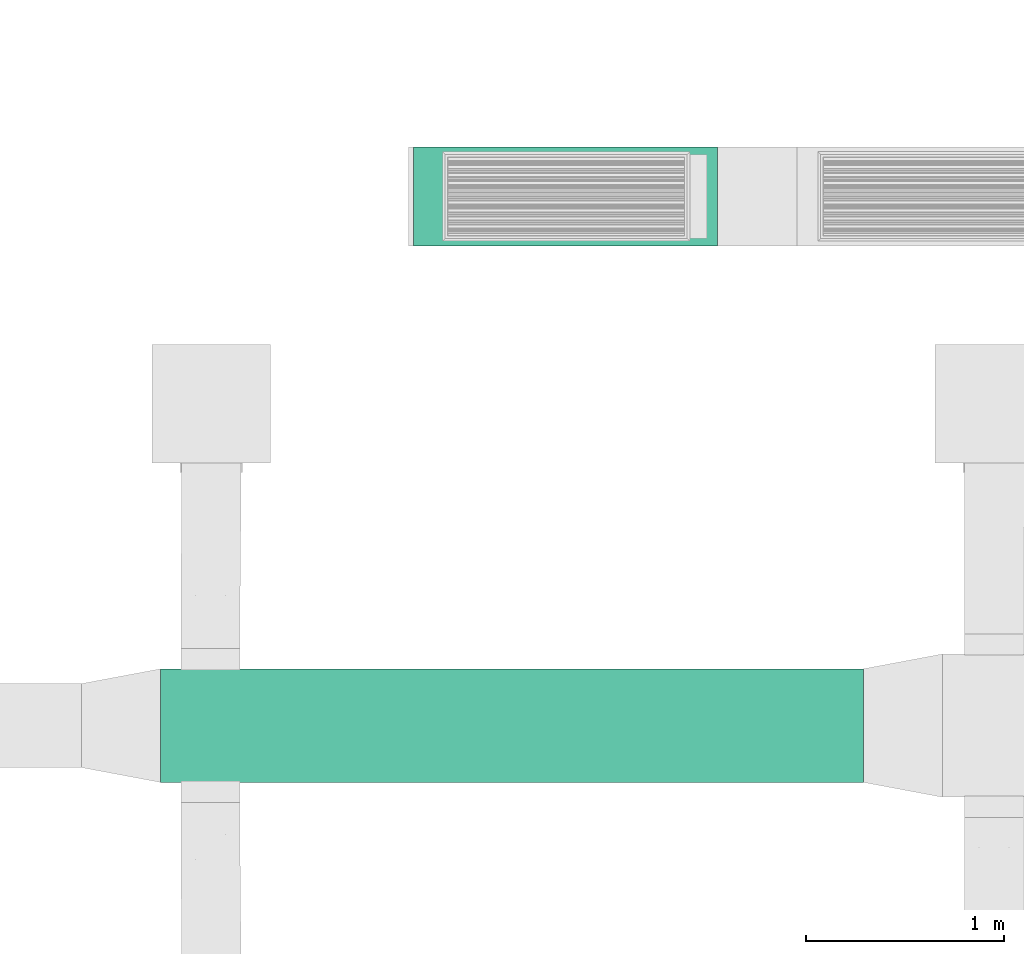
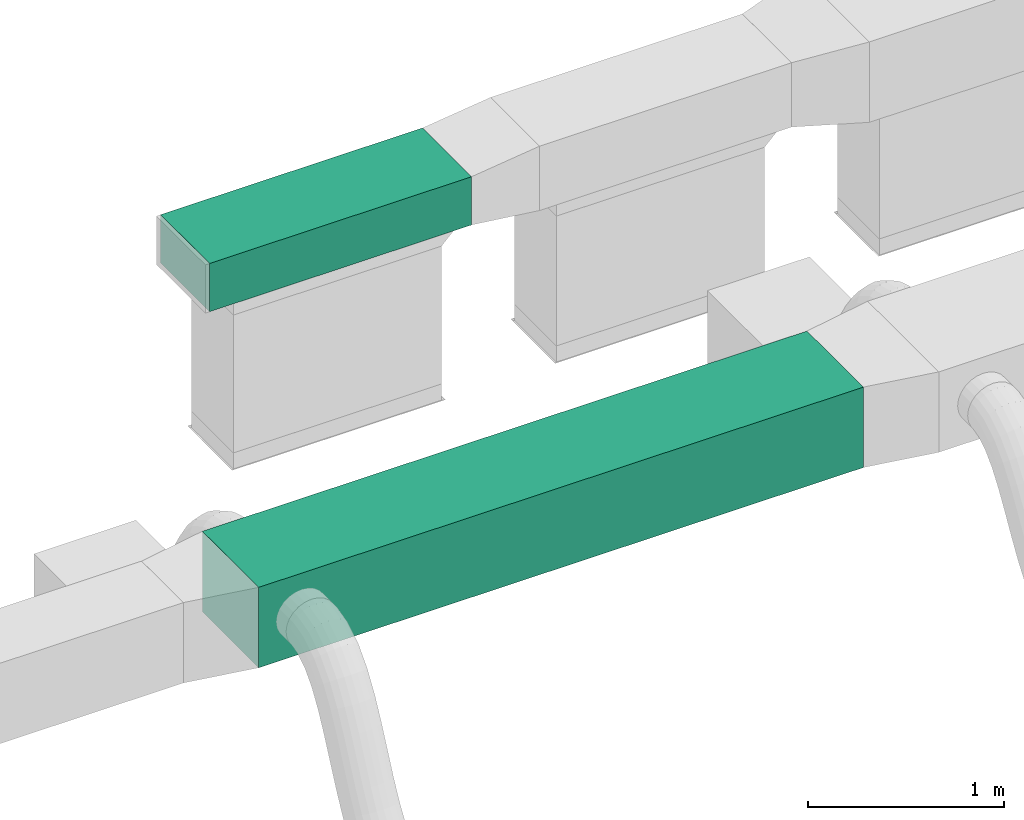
# One storey, part 8 of 60: 2 flow segments.
"""IFC2X3 building model written with IfcOpenShell, lengths in millimetres."""

from ifc_helpers import new_model, entity, si_unit, converted_unit, derived_unit, direction, frame, frame_2d, origin, place, context, subcontext, project, spatial, rectangle, extrude, type_object, element, save


model = new_model("IFC2X3")

# Units and contexts
model_context = context("Model", 3, precision=0.01, world=origin(), true_north=direction((6.123233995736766e-17, 1.0)))
body_context = subcontext(model_context, "Body", "Model", "MODEL_VIEW")
ifc_project = project(units=[si_unit("LENGTHUNIT", "METRE", prefix="MILLI"), converted_unit("PLANEANGLEUNIT", "DEGREE", entity("IfcPlaneAngleMeasure", 0.017453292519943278), si_unit("PLANEANGLEUNIT", "RADIAN"), dimensions=[0, 0, 0, 0, 0, 0, 0]), si_unit("AREAUNIT", "SQUARE_METRE"), derived_unit("THERMALTRANSMITTANCEUNIT", [(si_unit("MASSUNIT", "GRAM", prefix="KILO"), 1), (si_unit("THERMODYNAMICTEMPERATUREUNIT", "KELVIN"), -1), (si_unit("TIMEUNIT", "SECOND"), -3)])], contexts=[model_context])

# Site, building, storey
site_placement = place(None, origin())
site = spatial("IfcSite", under=ifc_project, at=site_placement, Name="Default", CompositionType="ELEMENT")
building_placement = place(site_placement, origin())
building = spatial("IfcBuilding", under=site, at=building_placement, Name="Praça Pedro II, 1301 - Centro (Sul), Teresina - PI, 64001-100", CompositionType="ELEMENT")
storey_placement = place(building_placement, frame((0.0, 0.0, 6040.0)))
storey = spatial("IfcBuildingStorey", under=building, at=storey_placement, Name="2PAV", CompositionType="ELEMENT", Elevation=6040.0)

# Flow segments
duct_segment_type_1 = type_object("IfcDuctSegmentType", Name="Duto retangular:Raios cotovelos / tês", PredefinedType="NOTDEFINED")
flow_segment_1_placement = place(storey_placement, origin())
element("IfcFlowSegment", 1, at=flow_segment_1_placement, inside=storey, type_object=duct_segment_type_1, Name="Duto retangular:Raios cotovelos / tês", ObjectType="Duto retangular:Raios cotovelos / tês", context=body_context, shape_type="SweptSolid", body=[
    extrude(rectangle(XDim=3556.2148466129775, YDim=574.9999999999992, at=frame_2d((2.1600499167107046e-12, 4.320099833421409e-12), x_axis=(1.0, 0.0))), frame((24073.213648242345, -58248.4212778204, 3230.0)), (0.0, 0.0, 1.0), 499.999999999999),
])
duct_segment_type_2 = type_object("IfcDuctSegmentType", Name="Duto retangular:Raios cotovelos / torneiras", PredefinedType="NOTDEFINED")
flow_segment_2_placement = place(storey_placement, origin())
element("IfcFlowSegment", 2, at=flow_segment_2_placement, inside=storey, type_object=duct_segment_type_2, Name="Duto retangular:Raios cotovelos / torneiras", ObjectType="Duto retangular:Raios cotovelos / torneiras", context=body_context, shape_type="SweptSolid", body=[
    extrude(rectangle(XDim=1540.1201250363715, YDim=499.999999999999, at=frame_2d((0.0, -4.334310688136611e-12), x_axis=(1.0, 0.0))), frame((24344.021451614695, -55571.29390261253, 3350.0), z_axis=(0.0, 0.0, 1.0), x_axis=(-1.0, 0.0, 0.0)), (0.0, 0.0, 1.0), 299.9999999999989),
])

save(model, "model.ifc")
